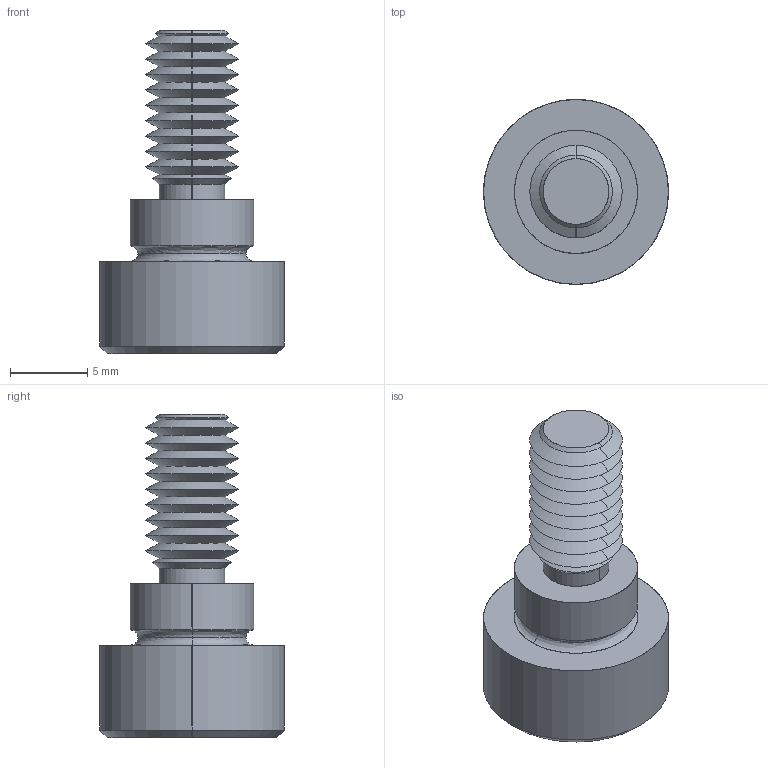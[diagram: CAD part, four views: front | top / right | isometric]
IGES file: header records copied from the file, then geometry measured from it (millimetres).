
Start section: SolidWorks IGES file using analytic representation for surfaces
Global section: file name: C:\Users\IanO\Documents\Temp Folder\GENERAL\SCREW REVISION\P0130_v2\P0130.T5_v2_20220106_IGES\P0130.080-004-T5.igs; native system: SolidWorks 2019; preprocessor: SolidWorks 2019; author: IanO; date: 220106.222959; units: millimetre
Bounding box: 12 x 12 x 21 mm (x, y, z)
Surface area: 936.8 mm2 (no closed solid volume)
Topology: 0 solids, 0 shells, 80 faces, 580 edges, 578 vertices
Faces by surface type: revolution 60, bspline 20
